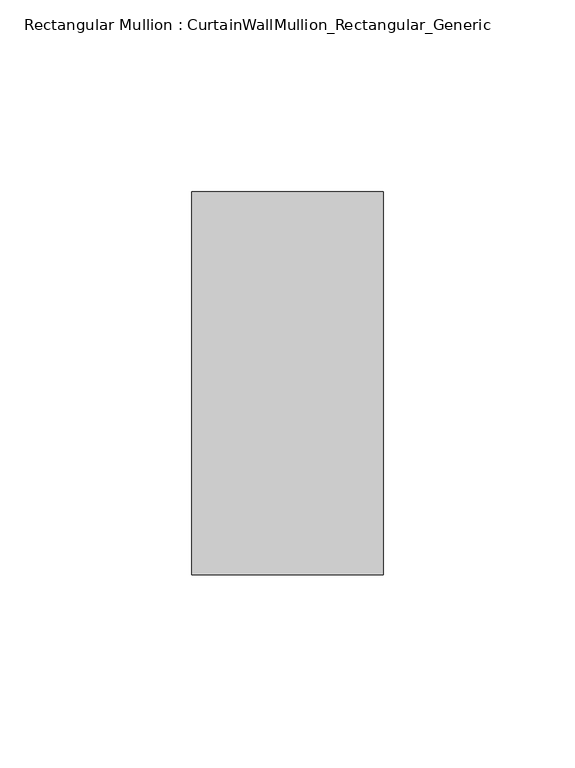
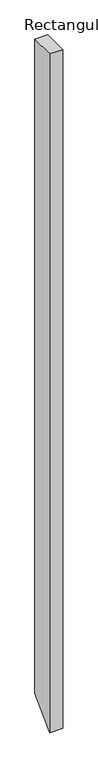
"""IFC4 building model written with IfcOpenShell, lengths in millimetres: member geometry, Rectangular Mullion : CurtainWallMullion_Rectangular_Generic."""

from ifc_helpers import new_model, si_unit, frame, origin, place, context, project, spatial, polyline, outline, extrude, source, transform, mapped, element, save


def rectangular_mullion_curtainwallmullion_rectangular_generic_55e77994(model_context):
    return source(origin(), model_context, "Body", "SweptSolid", [
        extrude(outline(polyline([(-50.0, 0.0), (50.0, 0.0), (50.0, -2689.6000002), (-50.0, -2789.6000002), (-50.0, 0.0)])), frame((-50.0, 0.0, 0.0), z_axis=(1.0, 0.0, 0.0), x_axis=(0.0, 1.0, 0.0)), (0.0, 0.0, 1.0), 50.0),
    ])


if __name__ == "__main__":
    model = new_model("IFC4")
    model_context = context("Model", 3, world=origin())
    ifc_project = project(units=[si_unit("LENGTHUNIT", "METRE", prefix="MILLI")], contexts=[model_context])
    site = spatial("IfcSite", under=ifc_project)
    building = spatial("IfcBuilding", under=site)
    placement = place(None, origin())
    rectangular_mullion_curtainwallmullion_rectangular_generic_shape = rectangular_mullion_curtainwallmullion_rectangular_generic_55e77994(model_context)
    element("IfcMember", 1, ObjectType="Rectangular Mullion : CurtainWallMullion_Rectangular_Generic", at=placement, inside=building, context=model_context, shape_type="MappedRepresentation", body=[
        mapped(rectangular_mullion_curtainwallmullion_rectangular_generic_shape, transform((0.0, 0.0, 0.0), x_axis=(1.0, 0.0, 0.0), y_axis=(0.0, 1.0, 0.0), z_axis=(0.0, 0.0, 1.0))),
    ])
    save(model, "model.ifc")
